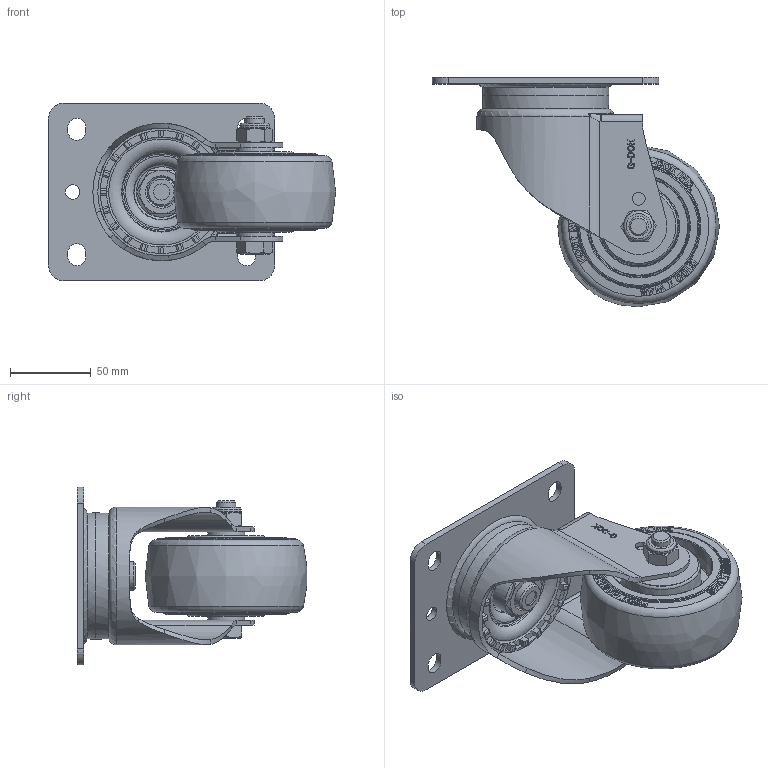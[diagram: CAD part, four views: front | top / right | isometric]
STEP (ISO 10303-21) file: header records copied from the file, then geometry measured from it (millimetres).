
FILE_DESCRIPTION(/* description */ (''),/* implementation_level */ '2;1');
FILE_NAME(/* name */ 'C:\Users\admin\Desktop\업무폴더\일자별 업무\2026\05월\05.15\변환\SPH-100-ASF-TUD&HRD-PEU.ipt.stp',/* time_stamp */ '2026-05-15T13:16:35+09:00',/* author */ ('admin'),/* organization */ ('지덕산업'),/* preprocessor_version */ 'ST-DEVELOPER v18.1',/* originating_system */ 'Autodesk Inventor 2021',/* authorisation */ '');
FILE_SCHEMA (('CONFIG_CONTROL_DESIGN'));
Length unit declared in the file: millimetre
Products named in the file (1): SPH-100-ASF-TUD&HRD-PEU
Bounding box: 177.5 x 141.75 x 110 mm (x, y, z)
Volume: 540517.3 mm3; surface area: 109438.2 mm2
Topology: 1 solids, 1 shells, 1210 faces, 3228 edges, 2122 vertices
Faces by surface type: plane 572, bspline 389, cylinder 140, cone 77, torus 32
Full cylindrical faces by diameter (mm): 8 x2, 9 x2, 10 x1, 12 x1, 18 x2, 18.5 x1, 31 x1, 31.177 x1, 46.001 x2
Entity records: 42503 total; most frequent: CARTESIAN_POINT 16009, ORIENTED_EDGE 6452, DIRECTION 3984, EDGE_CURVE 3226, VERTEX_POINT 2122, LINE 1572, VECTOR 1572, EDGE_LOOP 1332
